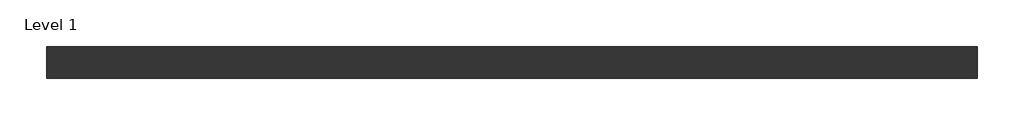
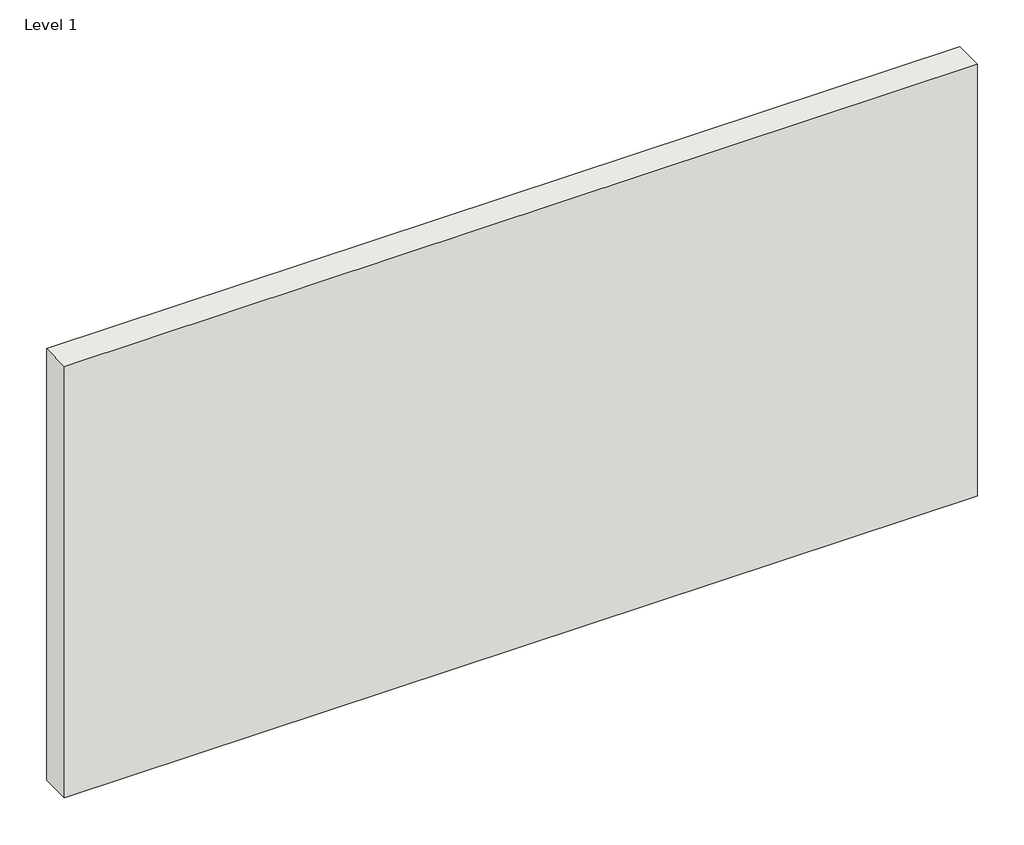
# One storey: 1 wall.
"""IFC4 building model written with IfcOpenShell, lengths in millimetres."""

from ifc_helpers import new_model, si_unit, origin, origin_with_axes, place, context, project, spatial, polyline, outline, extrude, element, save

model = new_model("IFC4")

# Units and contexts
model_context = context("Model", 3, world=origin())
ifc_project = project(units=[si_unit("LENGTHUNIT", "METRE", prefix="MILLI")], contexts=[model_context])

# Site, building, storey
site = spatial("IfcSite", under=ifc_project)
building = spatial("IfcBuilding", under=site)
storey = spatial("IfcBuildingStorey", under=building, Name="Level 1", Elevation=0.0)

# Wall
placement = place(None, origin())
element("IfcWall", 1, ObjectType="Generic - 8\"", at=placement, inside=storey, context=model_context, shape_type="SweptSolid", body=[
    extrude(outline(polyline([(1345.7029527, 1172.4204847), (-4750.2970473, 1172.4204847), (-4750.2970473, 1378.7954847), (1345.7029527, 1378.7954847), (1345.7029527, 1172.4204847)])), origin_with_axes(), (0.0, 0.0, 1.0), 3048.0),
])

save(model, "model.ifc")
